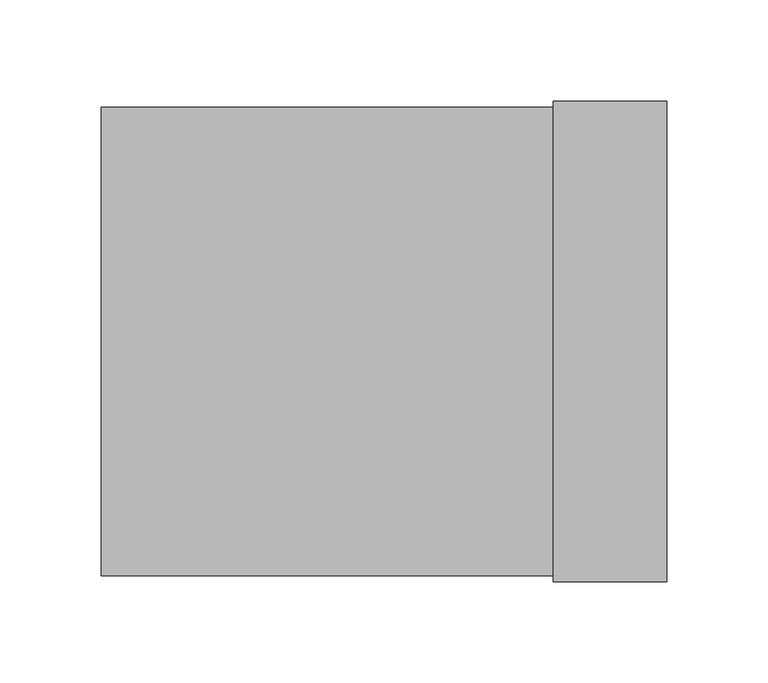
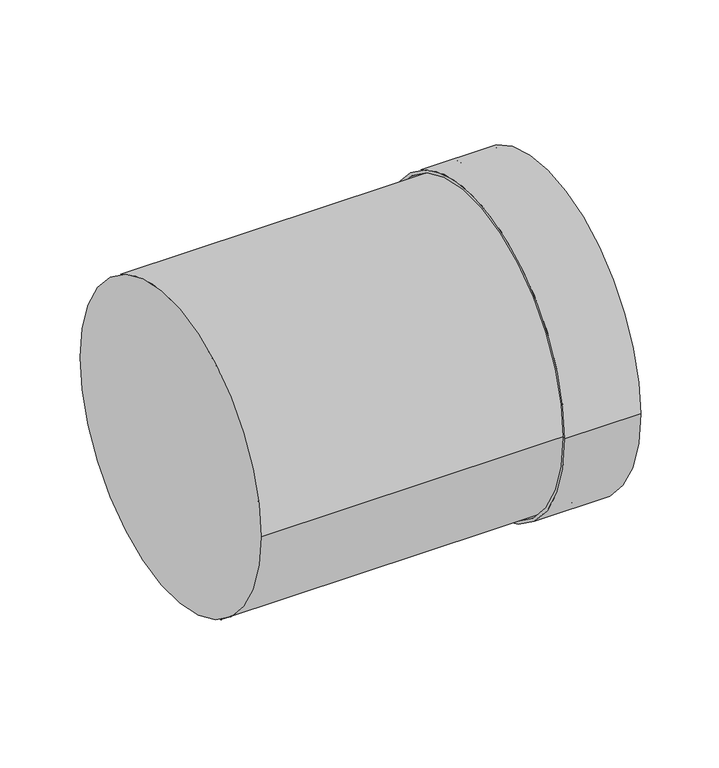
"""IFC4 building model written with IfcOpenShell, lengths in millimetres: duct fitting geometry, NLRS_57_DUF_UN_extension EPS_M&G : ø125 - ø200."""

from ifc_helpers import new_model, si_unit, point, frame, origin, origin_2d, place, context, project, spatial, polyline, circle_curve, trimmed, segment, composite_curve, outline, extrude, source, transform, mapped, element, save
from ifc_brep_helpers import plane_surface, cylinder_surface, revolved_surface, advanced_brep


def duct_fitting_ac704c44(model_context):
    return source(origin(), model_context, "Body", "SolidModel", [
        advanced_brep(
        [(223.0, -118.5, 0.0), (223.0, 118.5, 0.0), (279.0, 118.5, 0.0), (279.0, -118.5, 0.0), (223.0, -116.5, 0.0), (223.0, 116.5, 0.0), (250.0, -116.5, 0.0), (250.0, 116.5, 0.0), (250.0, -114.5, 0.0), (250.0, 114.5, 0.0), (252.0, -116.5, 0.0), (252.0, 116.5, 0.0), (252.0, 114.5, 0.0), (252.0, -114.5, 0.0), (279.0, -116.5, 0.0), (279.0, 116.5, 0.0)],
        [
            (0, 1, circle_curve(frame((223.0, 0.0, 0.0), z_axis=(1.0, 0.0, 0.0), x_axis=(0.0, 1.0, 0.0)), 118.5)),
            (1, 2),
            (2, 3, circle_curve(frame((279.0, 0.0, 0.0), z_axis=(-1.0, 0.0, 0.0), x_axis=(0.0, 1.0, 0.0)), 118.5)),
            (3, 0),
            (1, 0, circle_curve(frame((223.0, 0.0, 0.0), z_axis=(1.0, 0.0, 0.0), x_axis=(0.0, 1.0, 0.0)), 118.5)),
            (3, 2, circle_curve(frame((279.0, 0.0, 0.0), z_axis=(-1.0, 0.0, 0.0), x_axis=(0.0, 1.0, 0.0)), 118.5)),
            (4, 5, circle_curve(frame((223.0, 0.0, 0.0), z_axis=(1.0, 0.0, 0.0), x_axis=(0.0, 1.0, 0.0)), 116.5)),
            (5, 1),
            (0, 4),
            (5, 4, circle_curve(frame((223.0, 0.0, 0.0), z_axis=(1.0, 0.0, 0.0), x_axis=(0.0, 1.0, 0.0)), 116.5)),
            (6, 7, circle_curve(frame((250.0, 0.0, 0.0), z_axis=(1.0, 0.0, 0.0), x_axis=(0.0, 1.0, 0.0)), 116.5)),
            (7, 5),
            (4, 6),
            (7, 6, circle_curve(frame((250.0, 0.0, 0.0), z_axis=(1.0, 0.0, 0.0), x_axis=(0.0, 1.0, 0.0)), 116.5)),
            (8, 9, circle_curve(frame((250.0, 0.0, 0.0), z_axis=(1.0, 0.0, 0.0), x_axis=(0.0, 1.0, 0.0)), 114.5)),
            (9, 7),
            (6, 8),
            (9, 8, circle_curve(frame((250.0, 0.0, 0.0), z_axis=(1.0, 0.0, 0.0), x_axis=(0.0, 1.0, 0.0)), 114.5)),
            (10, 11, circle_curve(frame((252.0, 0.0, 0.0), z_axis=(1.0, 0.0, 0.0), x_axis=(0.0, 1.0, 0.0)), 116.5)),
            (11, 12),
            (12, 13, circle_curve(frame((252.0, 0.0, 0.0), z_axis=(-1.0, 0.0, 0.0), x_axis=(0.0, 1.0, 0.0)), 114.5)),
            (13, 10),
            (11, 10, circle_curve(frame((252.0, 0.0, 0.0), z_axis=(1.0, 0.0, 0.0), x_axis=(0.0, 1.0, 0.0)), 116.5)),
            (13, 12, circle_curve(frame((252.0, 0.0, 0.0), z_axis=(-1.0, 0.0, 0.0), x_axis=(0.0, 1.0, 0.0)), 114.5)),
            (14, 15, circle_curve(frame((279.0, 0.0, 0.0), z_axis=(1.0, 0.0, 0.0), x_axis=(0.0, 1.0, 0.0)), 116.5)),
            (15, 11),
            (10, 14),
            (15, 14, circle_curve(frame((279.0, 0.0, 0.0), z_axis=(1.0, 0.0, 0.0), x_axis=(0.0, 1.0, 0.0)), 116.5)),
            (2, 15),
            (14, 3),
            (12, 9),
            (8, 13),
        ],
        [
            cylinder_surface(frame((2226.5, 0.0, 0.0), z_axis=(-1.0, 0.0, 0.0), x_axis=(0.0, 1.0, 0.0)), 118.5),
            plane_surface(frame((223.0, 0.0, 0.0), z_axis=(-1.0, 0.0, 0.0), x_axis=(0.0, 1.0, 0.0))),
            revolved_surface(polyline([(223.0, 116.5, 0.0), (250.0, 116.5, 0.0)]), (2226.5, 0.0, 0.0), (-1.0, 0.0, 0.0)),
            plane_surface(frame((250.0, 0.0, 0.0), z_axis=(-1.0, 0.0, 0.0), x_axis=(0.0, 1.0, 0.0))),
            plane_surface(frame((252.0, 0.0, 0.0), z_axis=(1.0, 0.0, 0.0), x_axis=(0.0, 1.0, 0.0))),
            revolved_surface(polyline([(252.0, 116.5, 0.0), (279.0, 116.5, 0.0)]), (2226.5, 0.0, 0.0), (-1.0, 0.0, 0.0)),
            plane_surface(frame((279.0, 0.0, 0.0), z_axis=(1.0, 0.0, 0.0), x_axis=(0.0, 1.0, 0.0))),
            revolved_surface(polyline([(250.0, 114.5, 0.0), (252.0, 114.5, 0.0)]), (2226.5, 0.0, 0.0), (-1.0, 0.0, 0.0)),
        ],
        [
            (0, [[1, 2, 3, 4]]),
            (0, [[5, -4, 6, -2]]),
            (1, [[7, 8, -1, 9]]),
            (1, [[10, -9, -5, -8]]),
            (2, [[11, 12, -7, 13]]),
            (2, [[14, -13, -10, -12]]),
            (3, [[15, 16, -11, 17]]),
            (3, [[18, -17, -14, -16]]),
            (4, [[19, 20, 21, 22]]),
            (4, [[23, -22, 24, -20]]),
            (5, [[25, 26, -19, 27]]),
            (5, [[28, -27, -23, -26]]),
            (6, [[-3, 29, -25, 30]]),
            (6, [[-6, -30, -28, -29]]),
            (7, [[-21, 31, -15, 32]]),
            (7, [[-24, -32, -18, -31]]),
        ],
    ),
        extrude(outline(composite_curve([segment(trimmed(circle_curve(origin_2d(), 115.5), [point((-115.5, 0.0))], [point((115.5, 0.0))], False, "CARTESIAN"), True, "CONTINUOUS"), segment(trimmed(circle_curve(origin_2d(), 115.5), [point((115.5, 0.0))], [point((-115.5, 0.0))], False, "CARTESIAN"), True, "CONTINUOUS")], self_intersect=False)), frame((0.0, 0.0, 0.0), z_axis=(1.0, 0.0, 0.0), x_axis=(0.0, 1.0, 0.0)), (0.0, 0.0, 1.0), 250.0),
    ])


if __name__ == "__main__":
    model = new_model("IFC4")
    model_context = context("Model", 3, world=origin())
    ifc_project = project(units=[si_unit("LENGTHUNIT", "METRE", prefix="MILLI")], contexts=[model_context])
    site = spatial("IfcSite", under=ifc_project)
    building = spatial("IfcBuilding", under=site)
    placement = place(None, origin())
    duct_fitting_shape = duct_fitting_ac704c44(model_context)
    element("IfcDuctFitting", 1, ObjectType="NLRS_57_DUF_UN_extension EPS_M&G : ø125 - ø200", at=placement, inside=building, context=model_context, shape_type="MappedRepresentation", body=[
        mapped(duct_fitting_shape, transform((0.0, 0.0, 0.0), x_axis=(1.0, 0.0, 0.0), y_axis=(0.0, 1.0, 0.0), z_axis=(0.0, 0.0, 1.0))),
    ])
    save(model, "model.ifc")
